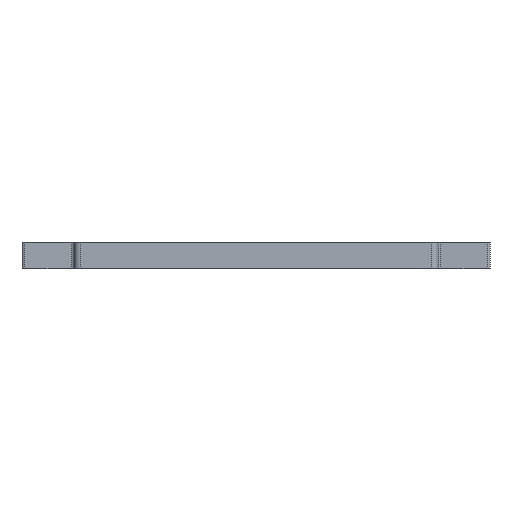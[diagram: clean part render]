
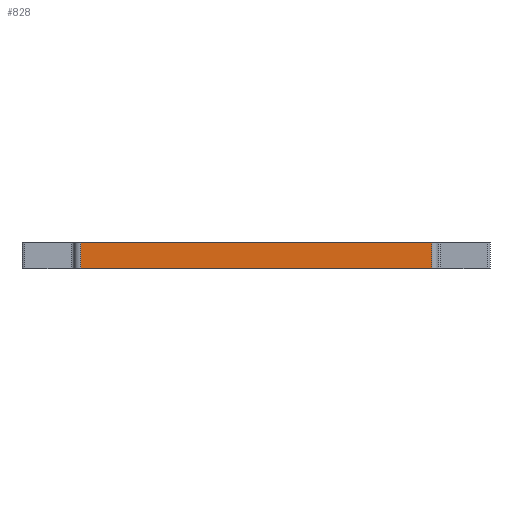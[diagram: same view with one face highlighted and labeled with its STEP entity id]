
A CAD part, front view. The second image highlights one B-rep face of the part: STEP entity #828.
In plain terms, the highlighted planar face has unit normal (0, -1, 0).
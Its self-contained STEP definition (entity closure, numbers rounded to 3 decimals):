
#108=ORIENTED_EDGE('',*,*,#347,.F.);
#109=ORIENTED_EDGE('',*,*,#346,.F.);
#110=ORIENTED_EDGE('',*,*,#348,.T.);
#111=ORIENTED_EDGE('',*,*,#349,.T.);
#346=EDGE_CURVE('',#465,#464,#548,.T.);
#347=EDGE_CURVE('',#464,#466,#549,.T.);
#348=EDGE_CURVE('',#465,#467,#550,.T.);
#349=EDGE_CURVE('',#467,#466,#551,.T.);
#464=VERTEX_POINT('',#1261);
#465=VERTEX_POINT('',#1263);
#466=VERTEX_POINT('',#1267);
#467=VERTEX_POINT('',#1269);
#548=LINE('',#1264,#616);
#549=LINE('',#1266,#617);
#550=LINE('',#1268,#618);
#551=LINE('',#1270,#619);
#616=VECTOR('',#997,1000.);
#617=VECTOR('',#1000,1000.);
#618=VECTOR('',#1001,1000.);
#619=VECTOR('',#1002,1000.);
#682=EDGE_LOOP('',(#108,#109,#110,#111));
#746=FACE_BOUND('',#682,.T.);
#809=PLANE('',#889);
#828=ADVANCED_FACE('',(#746),#809,.T.);
#889=AXIS2_PLACEMENT_3D('',#1265,#998,#999);
#997=DIRECTION('',(0.,0.,1.));
#998=DIRECTION('',(0.,-1.,0.));
#999=DIRECTION('',(1.,0.,0.));
#1000=DIRECTION('',(1.,0.,0.));
#1001=DIRECTION('',(1.,0.,0.));
#1002=DIRECTION('',(0.,0.,1.));
#1261=CARTESIAN_POINT('',(-13.5,-32.,0.));
#1263=CARTESIAN_POINT('',(-13.5,-32.,-2.));
#1264=CARTESIAN_POINT('',(-13.5,-32.,-2.));
#1265=CARTESIAN_POINT('',(-13.5,-32.,-2.));
#1266=CARTESIAN_POINT('',(-13.5,-32.,0.));
#1267=CARTESIAN_POINT('',(13.5,-32.,0.));
#1268=CARTESIAN_POINT('',(-13.5,-32.,-2.));
#1269=CARTESIAN_POINT('',(13.5,-32.,-2.));
#1270=CARTESIAN_POINT('',(13.5,-32.,-2.));
